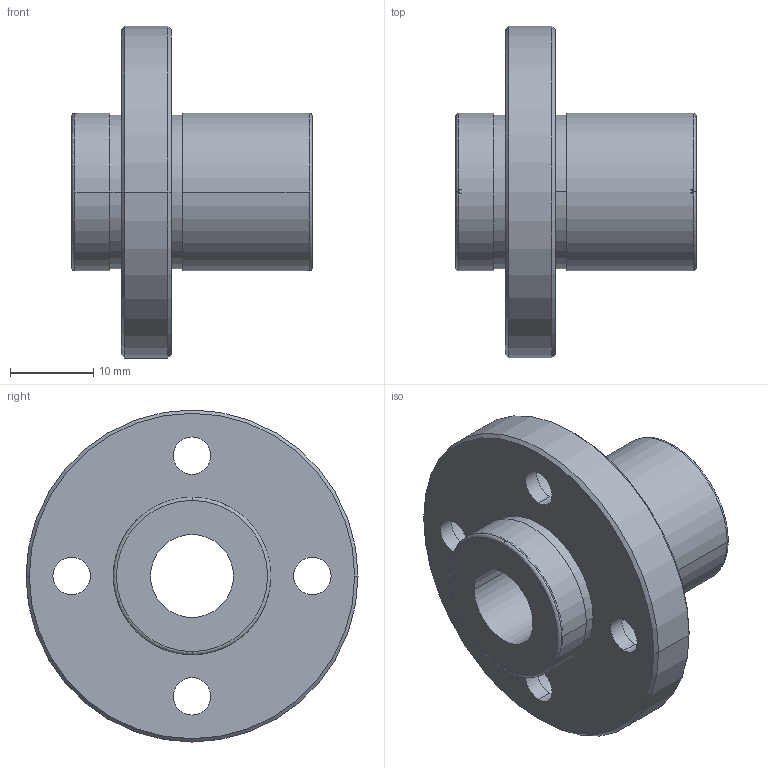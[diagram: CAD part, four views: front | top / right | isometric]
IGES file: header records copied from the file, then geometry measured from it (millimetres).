
Start section: 3D InterOp IGES (Version 21 0 1), Spatial Corp. Copyright (c) 1999-2007.
Global section: file name: NFID-10VUU.igs; native system: Spatial Corp.; preprocessor: 3D InterOp GENERIC/IGES 3.0; author: Noname; organization: Noname; date: 20220308.111937; units: millimetre
Bounding box: 29 x 40 x 40 mm (x, y, z)
Surface area: 6162.4 mm2 (no closed solid volume)
Topology: 0 solids, 0 shells, 46 faces, 216 edges, 212 vertices
Faces by surface type: revolution 36, extrusion 10
